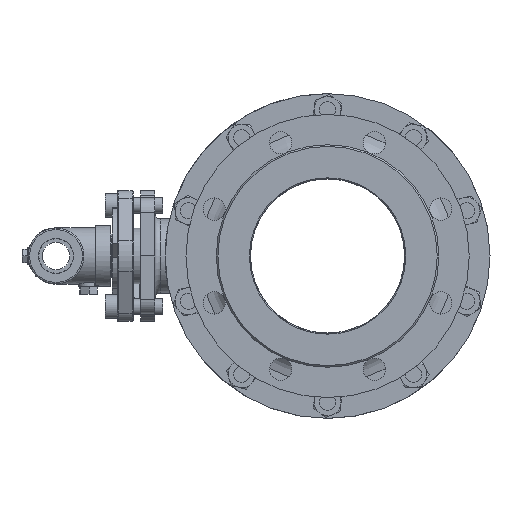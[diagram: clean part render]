
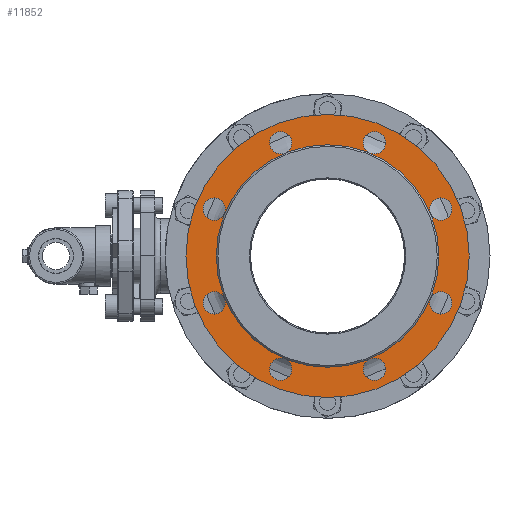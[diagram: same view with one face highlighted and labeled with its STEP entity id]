
A CAD part, left-side view. The second image highlights one B-rep face of the part: STEP entity #11852.
In plain terms, the highlighted planar face has unit normal (1, 0, 0).
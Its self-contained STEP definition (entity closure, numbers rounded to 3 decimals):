
#10684=CARTESIAN_POINT('',(-196.4,0.0,-109.6));
#10685=VERTEX_POINT('',#10684);
#10686=CARTESIAN_POINT('',(-196.4,0.0,0.0));
#10687=DIRECTION('',(1.0,0.0,0.0));
#10688=DIRECTION('',(0.0,0.0,-1.0));
#10689=AXIS2_PLACEMENT_3D('',#10686,#10687,#10688);
#10690=CIRCLE('',#10689,109.6);
#10691=EDGE_CURVE('',#10685,#10685,#10690,.T.);
#11745=CARTESIAN_POINT('',(-196.4,-141.174,-141.174));
#11746=DIRECTION('',(-1.0,0.0,0.0));
#11747=DIRECTION('',(0.0,0.0,1.0));
#11748=AXIS2_PLACEMENT_3D('',#11745,#11746,#11747);
#11749=PLANE('',#11748);
#11750=CARTESIAN_POINT('',(-196.4,0.0,139.5));
#11751=VERTEX_POINT('',#11750);
#11752=CARTESIAN_POINT('',(-196.4,0.0,0.0));
#11753=DIRECTION('',(-1.0,0.0,0.0));
#11754=DIRECTION('',(0.0,0.0,1.0));
#11755=AXIS2_PLACEMENT_3D('',#11752,#11753,#11754);
#11756=CIRCLE('',#11755,139.5);
#11757=EDGE_CURVE('',#11751,#11751,#11756,.T.);
#11758=ORIENTED_EDGE('',*,*,#11757,.F.);
#11759=EDGE_LOOP('',(#11758));
#11760=FACE_OUTER_BOUND('',#11759,.T.);
#11761=ORIENTED_EDGE('',*,*,#10691,.F.);
#11762=EDGE_LOOP('',(#11761));
#11763=FACE_BOUND('',#11762,.T.);
#11764=CARTESIAN_POINT('',(-196.4,111.558,-35.209));
#11765=VERTEX_POINT('',#11764);
#11766=CARTESIAN_POINT('',(-196.4,111.558,-46.209));
#11767=DIRECTION('',(-1.0,0.0,0.0));
#11768=DIRECTION('',(0.0,0.0,1.0));
#11769=AXIS2_PLACEMENT_3D('',#11766,#11767,#11768);
#11770=CIRCLE('',#11769,11.);
#11771=EDGE_CURVE('',#11765,#11765,#11770,.F.);
#11772=ORIENTED_EDGE('',*,*,#11771,.F.);
#11773=EDGE_LOOP('',(#11772));
#11774=FACE_BOUND('',#11773,.T.);
#11775=CARTESIAN_POINT('',(-196.4,46.209,-100.558));
#11776=VERTEX_POINT('',#11775);
#11777=CARTESIAN_POINT('',(-196.4,46.209,-111.558));
#11778=DIRECTION('',(-1.0,0.0,0.0));
#11779=DIRECTION('',(0.0,0.0,1.0));
#11780=AXIS2_PLACEMENT_3D('',#11777,#11778,#11779);
#11781=CIRCLE('',#11780,11.);
#11782=EDGE_CURVE('',#11776,#11776,#11781,.F.);
#11783=ORIENTED_EDGE('',*,*,#11782,.F.);
#11784=EDGE_LOOP('',(#11783));
#11785=FACE_BOUND('',#11784,.T.);
#11786=CARTESIAN_POINT('',(-196.4,-46.209,-100.558));
#11787=VERTEX_POINT('',#11786);
#11788=CARTESIAN_POINT('',(-196.4,-46.209,-111.558));
#11789=DIRECTION('',(-1.0,0.0,0.0));
#11790=DIRECTION('',(0.0,0.0,1.0));
#11791=AXIS2_PLACEMENT_3D('',#11788,#11789,#11790);
#11792=CIRCLE('',#11791,11.);
#11793=EDGE_CURVE('',#11787,#11787,#11792,.F.);
#11794=ORIENTED_EDGE('',*,*,#11793,.F.);
#11795=EDGE_LOOP('',(#11794));
#11796=FACE_BOUND('',#11795,.T.);
#11797=CARTESIAN_POINT('',(-196.4,-111.558,-35.209));
#11798=VERTEX_POINT('',#11797);
#11799=CARTESIAN_POINT('',(-196.4,-111.558,-46.209));
#11800=DIRECTION('',(-1.0,0.0,0.0));
#11801=DIRECTION('',(0.0,0.0,1.0));
#11802=AXIS2_PLACEMENT_3D('',#11799,#11800,#11801);
#11803=CIRCLE('',#11802,11.);
#11804=EDGE_CURVE('',#11798,#11798,#11803,.F.);
#11805=ORIENTED_EDGE('',*,*,#11804,.F.);
#11806=EDGE_LOOP('',(#11805));
#11807=FACE_BOUND('',#11806,.T.);
#11808=CARTESIAN_POINT('',(-196.4,-111.558,57.209));
#11809=VERTEX_POINT('',#11808);
#11810=CARTESIAN_POINT('',(-196.4,-111.558,46.209));
#11811=DIRECTION('',(-1.0,0.0,0.0));
#11812=DIRECTION('',(0.0,0.0,1.0));
#11813=AXIS2_PLACEMENT_3D('',#11810,#11811,#11812);
#11814=CIRCLE('',#11813,11.);
#11815=EDGE_CURVE('',#11809,#11809,#11814,.F.);
#11816=ORIENTED_EDGE('',*,*,#11815,.F.);
#11817=EDGE_LOOP('',(#11816));
#11818=FACE_BOUND('',#11817,.T.);
#11819=CARTESIAN_POINT('',(-196.4,-46.209,122.558));
#11820=VERTEX_POINT('',#11819);
#11821=CARTESIAN_POINT('',(-196.4,-46.209,111.558));
#11822=DIRECTION('',(-1.0,0.0,0.0));
#11823=DIRECTION('',(0.0,0.0,1.0));
#11824=AXIS2_PLACEMENT_3D('',#11821,#11822,#11823);
#11825=CIRCLE('',#11824,11.);
#11826=EDGE_CURVE('',#11820,#11820,#11825,.F.);
#11827=ORIENTED_EDGE('',*,*,#11826,.F.);
#11828=EDGE_LOOP('',(#11827));
#11829=FACE_BOUND('',#11828,.T.);
#11830=CARTESIAN_POINT('',(-196.4,46.209,122.558));
#11831=VERTEX_POINT('',#11830);
#11832=CARTESIAN_POINT('',(-196.4,46.209,111.558));
#11833=DIRECTION('',(-1.0,0.0,0.0));
#11834=DIRECTION('',(0.0,0.0,1.0));
#11835=AXIS2_PLACEMENT_3D('',#11832,#11833,#11834);
#11836=CIRCLE('',#11835,11.);
#11837=EDGE_CURVE('',#11831,#11831,#11836,.F.);
#11838=ORIENTED_EDGE('',*,*,#11837,.F.);
#11839=EDGE_LOOP('',(#11838));
#11840=FACE_BOUND('',#11839,.T.);
#11841=CARTESIAN_POINT('',(-196.4,111.558,57.209));
#11842=VERTEX_POINT('',#11841);
#11843=CARTESIAN_POINT('',(-196.4,111.558,46.209));
#11844=DIRECTION('',(-1.0,0.0,0.0));
#11845=DIRECTION('',(0.0,0.0,1.0));
#11846=AXIS2_PLACEMENT_3D('',#11843,#11844,#11845);
#11847=CIRCLE('',#11846,11.);
#11848=EDGE_CURVE('',#11842,#11842,#11847,.F.);
#11849=ORIENTED_EDGE('',*,*,#11848,.F.);
#11850=EDGE_LOOP('',(#11849));
#11851=FACE_BOUND('',#11850,.T.);
#11852=ADVANCED_FACE('',(#11760,#11763,#11774,#11785,#11796,#11807,#11818,#11829,#11840,#11851),#11749,.F.);
